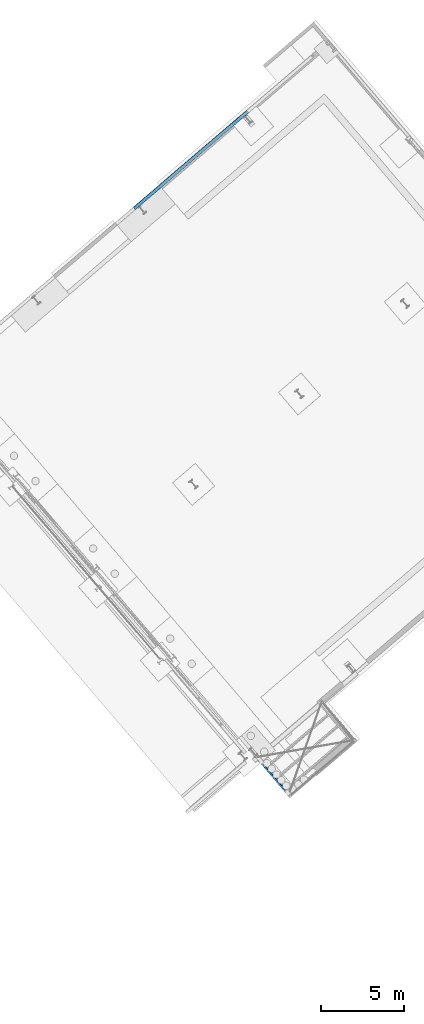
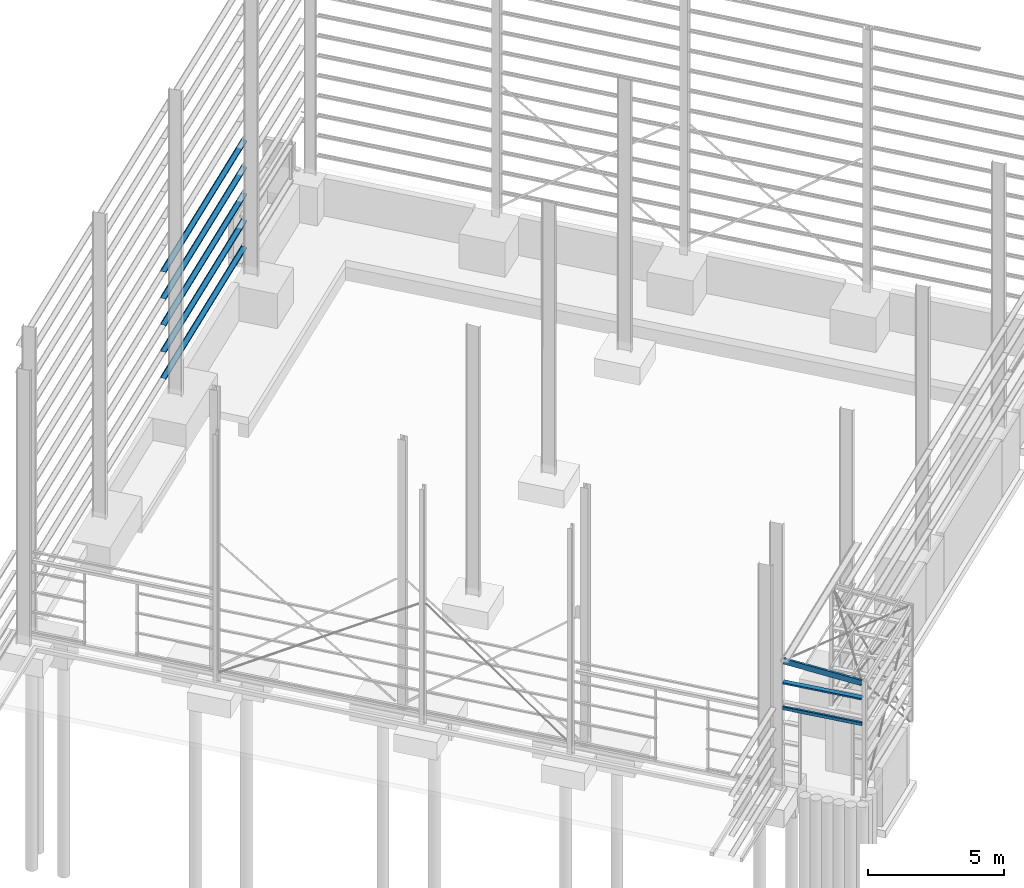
# One storey, part 19 of 41: 8 beams, 1 element without a shape of its own.
"""IFC2X3 building model written with IfcOpenShell, lengths in millimetres."""

from ifc_helpers import new_model, entity, si_unit, converted_unit, derived_unit, direction, frame, frame_2d, origin, place, context, subcontext, project, spatial, polyline, circle_curve, parameter, trimmed, segment, composite_curve, outline, extrude, material, type_object, element, aggregate, save


model = new_model("IFC2X3")

# Units and contexts
model_context = context("Model", 3, precision=0.01, world=origin(), true_north=direction((6.123031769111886e-17, 1.0)))
body_context = subcontext(model_context, "Body", "Model", "MODEL_VIEW")
ifc_project = project(units=[si_unit("LENGTHUNIT", "METRE", prefix="MILLI"), si_unit("AREAUNIT", "SQUARE_METRE"), si_unit("VOLUMEUNIT", "CUBIC_METRE"), converted_unit("PLANEANGLEUNIT", "DEGREE", entity("IfcRatioMeasure", 0.017453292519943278), si_unit("PLANEANGLEUNIT", "RADIAN"), dimensions=[0, 0, 0, 0, 0, 0, 0]), si_unit("MASSUNIT", "GRAM", prefix="KILO"), derived_unit("MASSDENSITYUNIT", [(si_unit("MASSUNIT", "GRAM", prefix="KILO"), 1), (si_unit("LENGTHUNIT", "METRE"), -3)]), derived_unit("MOMENTOFINERTIAUNIT", [(si_unit("LENGTHUNIT", "METRE"), 4)]), si_unit("TIMEUNIT", "SECOND"), si_unit("FREQUENCYUNIT", "HERTZ"), si_unit("THERMODYNAMICTEMPERATUREUNIT", "DEGREE_CELSIUS"), derived_unit("THERMALTRANSMITTANCEUNIT", [(si_unit("MASSUNIT", "GRAM", prefix="KILO"), 1), (si_unit("THERMODYNAMICTEMPERATUREUNIT", "KELVIN"), -1), (si_unit("TIMEUNIT", "SECOND"), -3)]), derived_unit("VOLUMETRICFLOWRATEUNIT", [(si_unit("LENGTHUNIT", "METRE"), 3), (si_unit("TIMEUNIT", "SECOND"), -1)]), derived_unit("MASSFLOWRATEUNIT", [(si_unit("MASSUNIT", "GRAM", prefix="KILO"), 1), (si_unit("TIMEUNIT", "SECOND"), -1)]), derived_unit("ROTATIONALFREQUENCYUNIT", [(si_unit("TIMEUNIT", "SECOND"), -1)]), si_unit("ELECTRICCURRENTUNIT", "AMPERE"), si_unit("ELECTRICVOLTAGEUNIT", "VOLT"), si_unit("POWERUNIT", "WATT"), si_unit("FORCEUNIT", "NEWTON", prefix="KILO"), si_unit("ILLUMINANCEUNIT", "LUX"), si_unit("LUMINOUSFLUXUNIT", "LUMEN"), si_unit("LUMINOUSINTENSITYUNIT", "CANDELA"), derived_unit("USERDEFINED", [(si_unit("MASSUNIT", "GRAM", prefix="KILO"), -1), (si_unit("LENGTHUNIT", "METRE"), -2), (si_unit("TIMEUNIT", "SECOND"), 3), (si_unit("LUMINOUSFLUXUNIT", "LUMEN"), 1)]), derived_unit("SOUNDPOWERUNIT", [(si_unit("MASSUNIT", "GRAM", prefix="KILO"), 1), (si_unit("LENGTHUNIT", "METRE"), 2), (si_unit("TIMEUNIT", "SECOND"), -3)]), derived_unit("LINEARVELOCITYUNIT", [(si_unit("LENGTHUNIT", "METRE"), 1), (si_unit("TIMEUNIT", "SECOND"), -1)]), si_unit("PRESSUREUNIT", "PASCAL"), derived_unit("USERDEFINED", [(si_unit("LENGTHUNIT", "METRE"), -2), (si_unit("MASSUNIT", "GRAM", prefix="KILO"), 1), (si_unit("TIMEUNIT", "SECOND"), -2)]), derived_unit("LINEARFORCEUNIT", [(si_unit("MASSUNIT", "GRAM", prefix="KILO"), 1), (si_unit("LENGTHUNIT", "METRE"), 1), (si_unit("TIMEUNIT", "SECOND"), -2), (si_unit("LENGTHUNIT", "METRE"), -1)]), derived_unit("PLANARFORCEUNIT", [(si_unit("MASSUNIT", "GRAM", prefix="KILO"), 1), (si_unit("LENGTHUNIT", "METRE"), 1), (si_unit("TIMEUNIT", "SECOND"), -2), (si_unit("LENGTHUNIT", "METRE"), -2)])], contexts=[model_context])

# Site, building, storey
site_placement = place(None, frame((962.4174930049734, -6014.433753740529, 0.0), z_axis=(0.0, 0.0, 1.0), x_axis=(0.7601792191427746, 0.649713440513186, 0.0)))
site = spatial("IfcSite", under=ifc_project, at=site_placement, Name="Default", CompositionType="ELEMENT")
building_placement = place(site_placement, origin())
building = spatial("IfcBuilding", under=site, at=building_placement, CompositionType="ELEMENT")
storey_placement = place(building_placement, origin())
storey = spatial("IfcBuildingStorey", under=building, at=storey_placement, Name="Datum", CompositionType="ELEMENT", Elevation=0.0)

# Beams
ifc_material_1 = material(Name="Metal - Light Gauge Painted")
beam_type_1 = type_object("IfcBeamType", Name="ADSK_AU_RHS-Rectangular Hollow Sections (AS 1163_C350):150x100x5.0RHS", PredefinedType="NOTDEFINED")
beam_1_placement = place(building_placement, frame((154514.96020470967, -29186.25772513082, 3350.0), z_axis=(0.0, 0.0, 1.0), x_axis=(0.0, 1.0, 0.0)))
element("IfcBeam", 1, at=beam_1_placement, inside=storey, type_object=beam_type_1, material=ifc_material_1, Name="ADSK_AU_RHS-Rectangular Hollow Sections (AS 1163_C350):150x100x5.0RHS", ObjectType="ADSK_AU_RHS-Rectangular Hollow Sections (AS 1163_C350):150x100x5.0RHS", context=body_context, shape_type="SweptSolid", body=[
    extrude(outline(composite_curve([segment(trimmed(circle_curve(frame_2d((-37.49999999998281, -62.49999999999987), x_axis=(1.0, 0.0)), 12.5), [parameter(180.00000000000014)], [parameter(269.99999999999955)], True, "PARAMETER"), True, "CONTINUOUS"), segment(polyline([(-37.49999999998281, -75.0), (37.50000000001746, -75.0)]), True, "CONTINUOUS"), segment(trimmed(circle_curve(frame_2d((37.50000000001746, -62.49999999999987), x_axis=(1.0, 0.0)), 12.5), [parameter(269.9999999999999)], [parameter(0.0)], True, "PARAMETER"), True, "CONTINUOUS"), segment(polyline([(50.0, -62.49999999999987), (50.0, 62.49999999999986)]), True, "CONTINUOUS"), segment(trimmed(circle_curve(frame_2d((37.50000000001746, 62.49999999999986), x_axis=(1.0, 0.0)), 12.5), [parameter(359.9999999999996)], [parameter(89.99999999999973)], True, "PARAMETER"), True, "CONTINUOUS"), segment(polyline([(37.50000000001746, 75.0), (-37.49999999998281, 75.0)]), True, "CONTINUOUS"), segment(trimmed(circle_curve(frame_2d((-37.49999999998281, 62.49999999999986), x_axis=(1.0, 0.0)), 12.5), [parameter(90.00000000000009)], [parameter(180.00000000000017)], True, "PARAMETER"), True, "CONTINUOUS"), segment(polyline([(-50.0, 62.49999999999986), (-50.0, -62.49999999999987)]), True, "CONTINUOUS")], self_intersect=False), holes=[composite_curve([segment(polyline([(37.50000000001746, -70.0), (-37.49999999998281, -70.0)]), True, "CONTINUOUS"), segment(trimmed(circle_curve(frame_2d((-37.49999999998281, -62.50000000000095), x_axis=(1.0, 0.0)), 7.5), [parameter(180.0000000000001)], [parameter(269.9999999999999)], True, "PARAMETER"), False, "CONTINUOUS"), segment(polyline([(-45.0, -62.50000000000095), (-45.0, 62.49999999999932)]), True, "CONTINUOUS"), segment(trimmed(circle_curve(frame_2d((-37.49999999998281, 62.49999999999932), x_axis=(1.0, 0.0)), 7.5), [parameter(90.00000000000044)], [parameter(180.0000000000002)], True, "PARAMETER"), False, "CONTINUOUS"), segment(polyline([(-37.49999999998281, 70.0), (37.50000000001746, 70.0)]), True, "CONTINUOUS"), segment(trimmed(circle_curve(frame_2d((37.50000000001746, 62.49999999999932), x_axis=(1.0, 0.0)), 7.5), [parameter(0.0)], [parameter(90.00000000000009)], True, "PARAMETER"), False, "CONTINUOUS"), segment(polyline([(45.0, 62.49999999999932), (45.0, -62.50000000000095)]), True, "CONTINUOUS"), segment(trimmed(circle_curve(frame_2d((37.50000000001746, -62.50000000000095), x_axis=(1.0, 0.0)), 7.5), [parameter(270.00000000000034)], [parameter(4.0711099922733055e-13)], True, "PARAMETER"), False, "CONTINUOUS")], self_intersect=False)]), frame((-37.17035699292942, 0.0, -75.0), z_axis=(1.0, 0.0, 0.0), x_axis=(0.0, -1.0, 0.0)), (0.0, 0.0, 1.0), 3110.0703569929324),
])
beam_type_2 = type_object("IfcBeamType", Name="ADSK_AU_PFC-Parallel Flange Channels (AS 3679_1):250PFC", PredefinedType="NOTDEFINED")
beam_2_placement = place(building_placement, frame((154495.36020470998, -29374.382434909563, 5238.588974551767), z_axis=(0.0, -0.08715574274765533, 0.9961946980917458), x_axis=(0.0, 0.9961946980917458, 0.08715574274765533)))
element("IfcBeam", 2, at=beam_2_placement, inside=storey, type_object=beam_type_2, material=ifc_material_1, Name="ADSK_AU_PFC-Parallel Flange Channels (AS 3679_1):250PFC", ObjectType="ADSK_AU_PFC-Parallel Flange Channels (AS 3679_1):250PFC", context=body_context, shape_type="SweptSolid", body=[
    extrude(outline(composite_curve([segment(polyline([(-125.0, -48.399999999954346), (-110.0, -48.399999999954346)]), True, "CONTINUOUS"), segment(polyline([(-110.0, -48.399999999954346), (-110.0, 21.600000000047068)]), True, "CONTINUOUS"), segment(trimmed(circle_curve(frame_2d((-98.0, 21.600000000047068), x_axis=(-1.0, 0.0)), 11.99999999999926), [parameter(269.99999999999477)], [parameter(0.0)], True, "PARAMETER"), False, "CONTINUOUS"), segment(polyline([(-98.0, 33.60000000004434), (98.0, 33.60000000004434)]), True, "CONTINUOUS"), segment(trimmed(circle_curve(frame_2d((98.0, 21.600000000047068), x_axis=(0.0, 1.0)), 11.999999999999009), [parameter(269.99999999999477)], [parameter(0.0)], True, "PARAMETER"), False, "CONTINUOUS"), segment(polyline([(110.0, 21.600000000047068), (110.0, -48.399999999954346)]), True, "CONTINUOUS"), segment(polyline([(110.0, -48.399999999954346), (125.0, -48.399999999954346)]), True, "CONTINUOUS"), segment(polyline([(125.0, -48.399999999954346), (125.0, 41.60000000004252)]), True, "CONTINUOUS"), segment(polyline([(125.0, 41.60000000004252), (-125.0, 41.60000000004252)]), True, "CONTINUOUS"), segment(polyline([(-125.0, 41.60000000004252), (-125.0, -48.399999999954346)]), True, "CONTINUOUS")], self_intersect=False)), frame((163.71873539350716, -13.0, -125.0), z_axis=(1.0, 0.0, 0.0), x_axis=(0.0, 0.0, -1.0)), (0.0, 0.0, 1.0), 3059.000000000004),
])

# Assembly, beams
assembly_placement = place(building_placement, origin())
assembly = element("IfcElementAssembly", 3, at=assembly_placement, inside=storey, Name="Structural Beam System:Structural Beam System 1", ObjectType="Structural Beam System:Structural Beam System 1", AssemblyPlace="NOTDEFINED", PredefinedType="BEAM_GRID")
ifc_material_2 = material(Name="Metal - Steel - 345 MPa")
beam_type_3 = type_object("IfcBeamType", Name="ADSK_AU_Light Gauge-Zeds:Z20012", PredefinedType="NOTDEFINED")
beam_3_placement = place(building_placement, frame((170439.31020470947, 3669.071917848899, 5413.499999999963)))
beam_3 = element("IfcBeam", 4, at=beam_3_placement, type_object=beam_type_3, material=ifc_material_2, Name="ADSK_AU_Light Gauge-Zeds:Z20012", ObjectType="ADSK_AU_Light Gauge-Zeds:Z20012", context=body_context, shape_type="SweptSolid", body=[
    extrude(outline(composite_curve([segment(polyline([(6.439999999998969, -101.50000000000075), (63.23999999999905, -101.50000000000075)]), True, "CONTINUOUS"), segment(trimmed(circle_curve(frame_2d((63.23999999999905, -98.29999999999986), x_axis=(0.0, -1.0)), 3.2000000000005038), [parameter(0.0)], [parameter(89.9999999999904)], True, "PARAMETER"), True, "CONTINUOUS"), segment(polyline([(66.43999999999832, -98.3000000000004), (66.43999999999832, -82.0)]), True, "CONTINUOUS"), segment(polyline([(66.43999999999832, -82.0), (65.23999999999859, -82.0)]), True, "CONTINUOUS"), segment(polyline([(65.23999999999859, -82.0), (65.23999999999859, -98.3000000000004)]), True, "CONTINUOUS"), segment(trimmed(circle_curve(frame_2d((63.23999999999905, -98.30000000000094), x_axis=(1.0, 0.0)), 1.9999999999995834), [parameter(269.99999999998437)], [parameter(0.0)], True, "PARAMETER"), False, "CONTINUOUS"), segment(polyline([(63.23999999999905, -100.30000000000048), (6.439999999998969, -100.30000000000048)]), True, "CONTINUOUS"), segment(trimmed(circle_curve(frame_2d((6.439999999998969, -98.30000000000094), x_axis=(0.0, -1.0)), 1.9999999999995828), [parameter(269.99999999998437)], [parameter(0.0)], True, "PARAMETER"), False, "CONTINUOUS"), segment(polyline([(4.439999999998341, -98.3000000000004), (4.439999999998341, 98.29999999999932)]), True, "CONTINUOUS"), segment(trimmed(circle_curve(frame_2d((1.2399999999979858, 98.29999999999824), x_axis=(1.0, 0.0)), 3.2000000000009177), [parameter(0.0)], [parameter(89.9999999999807)], True, "PARAMETER"), True, "CONTINUOUS"), segment(polyline([(1.2399999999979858, 101.49999999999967), (-68.36000000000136, 101.49999999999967)]), True, "CONTINUOUS"), segment(trimmed(circle_curve(frame_2d((-68.36000000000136, 98.29999999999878), x_axis=(0.0, 1.0)), 3.2000000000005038), [parameter(0.0)], [parameter(89.9999999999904)], True, "PARAMETER"), True, "CONTINUOUS"), segment(polyline([(-71.56000000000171, 98.29999999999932), (-71.56000000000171, 82.0)]), True, "CONTINUOUS"), segment(polyline([(-71.56000000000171, 82.0), (-70.36000000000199, 82.0)]), True, "CONTINUOUS"), segment(polyline([(-70.36000000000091, 82.0), (-70.36000000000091, 98.29999999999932)]), True, "CONTINUOUS"), segment(trimmed(circle_curve(frame_2d((-68.36000000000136, 98.29999999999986), x_axis=(-1.0, 0.0)), 1.9999999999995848), [parameter(269.99999999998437)], [parameter(0.0)], True, "PARAMETER"), False, "CONTINUOUS"), segment(polyline([(-68.36000000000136, 100.2999999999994), (1.2399999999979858, 100.2999999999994)]), True, "CONTINUOUS"), segment(trimmed(circle_curve(frame_2d((1.2399999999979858, 98.29999999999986), x_axis=(0.0, 1.0)), 1.999999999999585), [parameter(269.99999999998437)], [parameter(0.0)], True, "PARAMETER"), False, "CONTINUOUS"), segment(polyline([(3.2399999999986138, 98.29999999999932), (3.2399999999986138, -98.3000000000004)]), True, "CONTINUOUS"), segment(trimmed(circle_curve(frame_2d((6.440000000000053, -98.29999999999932), x_axis=(-1.0, 0.0)), 3.2000000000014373), [parameter(0.0)], [parameter(89.99999999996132)], True, "PARAMETER"), True, "CONTINUOUS")], self_intersect=False)), frame((0.1499999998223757, 101.50000000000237, 4.439999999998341), z_axis=(1.0, 0.0, 0.0), x_axis=(0.0, 0.0, -1.0)), (0.0, 0.0, 1.0), 8999.000000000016),
])
beam_4_placement = place(building_placement, frame((170439.31020470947, 3669.071917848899, 4213.499999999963)))
beam_4 = element("IfcBeam", 5, at=beam_4_placement, type_object=beam_type_3, material=ifc_material_2, Name="ADSK_AU_Light Gauge-Zeds:Z20012", ObjectType="ADSK_AU_Light Gauge-Zeds:Z20012", context=body_context, shape_type="SweptSolid", body=[
    extrude(outline(composite_curve([segment(polyline([(6.439999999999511, -101.50000000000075), (63.23999999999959, -101.50000000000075)]), True, "CONTINUOUS"), segment(trimmed(circle_curve(frame_2d((63.24000000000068, -98.30000000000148), x_axis=(0.0, -1.0)), 3.199999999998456), [parameter(0.0)], [parameter(90.00000000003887)], True, "PARAMETER"), True, "CONTINUOUS"), segment(polyline([(66.43999999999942, -98.3000000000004), (66.43999999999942, -82.0)]), True, "CONTINUOUS"), segment(polyline([(66.43999999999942, -82.0), (65.23999999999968, -82.0)]), True, "CONTINUOUS"), segment(polyline([(65.23999999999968, -82.0), (65.23999999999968, -98.3000000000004)]), True, "CONTINUOUS"), segment(trimmed(circle_curve(frame_2d((63.23999999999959, -98.3000000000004), x_axis=(1.0, 0.0)), 2.0000000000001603), [parameter(269.9999999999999)], [parameter(0.0)], True, "PARAMETER"), False, "CONTINUOUS"), segment(polyline([(63.23999999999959, -100.30000000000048), (6.439999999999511, -100.30000000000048)]), True, "CONTINUOUS"), segment(trimmed(circle_curve(frame_2d((6.439999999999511, -98.3000000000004), x_axis=(0.0, -1.0)), 2.000000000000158), [parameter(269.9999999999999)], [parameter(0.0)], True, "PARAMETER"), False, "CONTINUOUS"), segment(polyline([(4.439999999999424, -98.3000000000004), (4.439999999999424, 98.29999999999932)]), True, "CONTINUOUS"), segment(trimmed(circle_curve(frame_2d((1.240000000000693, 98.3000000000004), x_axis=(1.0, 0.0)), 3.199999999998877), [parameter(0.0)], [parameter(90.00000000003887)], True, "PARAMETER"), True, "CONTINUOUS"), segment(polyline([(1.2399999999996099, 101.49999999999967), (-68.36000000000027, 101.49999999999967)]), True, "CONTINUOUS"), segment(trimmed(circle_curve(frame_2d((-68.36000000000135, 98.3000000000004), x_axis=(0.0, 1.0)), 3.199999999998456), [parameter(0.0)], [parameter(90.00000000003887)], True, "PARAMETER"), True, "CONTINUOUS"), segment(polyline([(-71.56000000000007, 98.29999999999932), (-71.56000000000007, 82.0)]), True, "CONTINUOUS"), segment(polyline([(-71.56000000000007, 82.0), (-70.35999999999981, 82.0)]), True, "CONTINUOUS"), segment(polyline([(-70.36000000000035, 82.0), (-70.36000000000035, 98.29999999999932)]), True, "CONTINUOUS"), segment(trimmed(circle_curve(frame_2d((-68.36000000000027, 98.29999999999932), x_axis=(-1.0, 0.0)), 2.000000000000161), [parameter(269.9999999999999)], [parameter(0.0)], True, "PARAMETER"), False, "CONTINUOUS"), segment(polyline([(-68.36000000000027, 100.2999999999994), (1.2399999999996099, 100.2999999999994)]), True, "CONTINUOUS"), segment(trimmed(circle_curve(frame_2d((1.2399999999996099, 98.29999999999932), x_axis=(0.0, 1.0)), 2.0000000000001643), [parameter(269.9999999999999)], [parameter(0.0)], True, "PARAMETER"), False, "CONTINUOUS"), segment(polyline([(3.2399999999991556, 98.29999999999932), (3.2399999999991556, -98.3000000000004)]), True, "CONTINUOUS"), segment(trimmed(circle_curve(frame_2d((6.439999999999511, -98.3000000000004), x_axis=(-1.0, 0.0)), 3.200000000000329), [parameter(0.0)], [parameter(90.00000000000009)], True, "PARAMETER"), True, "CONTINUOUS")], self_intersect=False)), frame((0.1499999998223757, 101.50000000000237, 4.439999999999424), z_axis=(1.0, 0.0, 0.0), x_axis=(0.0, 0.0, -1.0)), (0.0, 0.0, 1.0), 8999.000000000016),
])
beam_5_placement = place(building_placement, frame((170439.31020470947, 3669.071917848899, 3013.4999999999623)))
beam_5 = element("IfcBeam", 6, at=beam_5_placement, type_object=beam_type_3, material=ifc_material_2, Name="ADSK_AU_Light Gauge-Zeds:Z20012", ObjectType="ADSK_AU_Light Gauge-Zeds:Z20012", context=body_context, shape_type="SweptSolid", body=[
    extrude(outline(composite_curve([segment(polyline([(6.440000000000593, -101.50000000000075), (63.24000000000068, -101.50000000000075)]), True, "CONTINUOUS"), segment(trimmed(circle_curve(frame_2d((63.240000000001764, -98.30000000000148), x_axis=(0.0, -1.0)), 3.199999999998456), [parameter(0.0)], [parameter(90.00000000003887)], True, "PARAMETER"), True, "CONTINUOUS"), segment(polyline([(66.4400000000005, -98.3000000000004), (66.4400000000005, -82.0)]), True, "CONTINUOUS"), segment(polyline([(66.4400000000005, -82.0), (65.24000000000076, -82.0)]), True, "CONTINUOUS"), segment(polyline([(65.24000000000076, -82.0), (65.24000000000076, -98.3000000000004)]), True, "CONTINUOUS"), segment(trimmed(circle_curve(frame_2d((63.24000000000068, -98.3000000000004), x_axis=(1.0, 0.0)), 2.0000000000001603), [parameter(269.9999999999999)], [parameter(0.0)], True, "PARAMETER"), False, "CONTINUOUS"), segment(polyline([(63.24000000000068, -100.30000000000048), (6.440000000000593, -100.30000000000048)]), True, "CONTINUOUS"), segment(trimmed(circle_curve(frame_2d((6.440000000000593, -98.3000000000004), x_axis=(0.0, -1.0)), 2.000000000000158), [parameter(269.9999999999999)], [parameter(0.0)], True, "PARAMETER"), False, "CONTINUOUS"), segment(polyline([(4.440000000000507, -98.3000000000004), (4.440000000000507, 98.29999999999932)]), True, "CONTINUOUS"), segment(trimmed(circle_curve(frame_2d((1.2400000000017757, 98.3000000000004), x_axis=(1.0, 0.0)), 3.199999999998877), [parameter(0.0)], [parameter(90.00000000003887)], True, "PARAMETER"), True, "CONTINUOUS"), segment(polyline([(1.2400000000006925, 101.49999999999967), (-68.35999999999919, 101.49999999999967)]), True, "CONTINUOUS"), segment(trimmed(circle_curve(frame_2d((-68.36000000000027, 98.3000000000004), x_axis=(0.0, 1.0)), 3.199999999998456), [parameter(0.0)], [parameter(90.00000000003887)], True, "PARAMETER"), True, "CONTINUOUS"), segment(polyline([(-71.559999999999, 98.29999999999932), (-71.559999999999, 82.0)]), True, "CONTINUOUS"), segment(polyline([(-71.559999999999, 82.0), (-70.35999999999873, 82.0)]), True, "CONTINUOUS"), segment(polyline([(-70.35999999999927, 82.0), (-70.35999999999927, 98.29999999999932)]), True, "CONTINUOUS"), segment(trimmed(circle_curve(frame_2d((-68.35999999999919, 98.29999999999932), x_axis=(-1.0, 0.0)), 2.000000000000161), [parameter(269.9999999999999)], [parameter(0.0)], True, "PARAMETER"), False, "CONTINUOUS"), segment(polyline([(-68.35999999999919, 100.2999999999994), (1.2400000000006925, 100.2999999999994)]), True, "CONTINUOUS"), segment(trimmed(circle_curve(frame_2d((1.2400000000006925, 98.29999999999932), x_axis=(0.0, 1.0)), 2.0000000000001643), [parameter(269.9999999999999)], [parameter(0.0)], True, "PARAMETER"), False, "CONTINUOUS"), segment(polyline([(3.2400000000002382, 98.29999999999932), (3.2400000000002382, -98.3000000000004)]), True, "CONTINUOUS"), segment(trimmed(circle_curve(frame_2d((6.440000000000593, -98.3000000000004), x_axis=(-1.0, 0.0)), 3.200000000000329), [parameter(0.0)], [parameter(90.00000000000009)], True, "PARAMETER"), True, "CONTINUOUS")], self_intersect=False)), frame((0.1499999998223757, 101.50000000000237, 4.440000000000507), z_axis=(1.0, 0.0, 0.0), x_axis=(0.0, 0.0, -1.0)), (0.0, 0.0, 1.0), 8999.000000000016),
])
beam_6_placement = place(building_placement, frame((170439.31020470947, 3669.071917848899, 1813.4999999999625)))
beam_6 = element("IfcBeam", 7, at=beam_6_placement, type_object=beam_type_3, material=ifc_material_2, Name="ADSK_AU_Light Gauge-Zeds:Z20012", ObjectType="ADSK_AU_Light Gauge-Zeds:Z20012", context=body_context, shape_type="SweptSolid", body=[
    extrude(outline(composite_curve([segment(polyline([(6.440000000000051, -101.50000000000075), (63.24000000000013, -101.50000000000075)]), True, "CONTINUOUS"), segment(trimmed(circle_curve(frame_2d((63.24000000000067, -98.30000000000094), x_axis=(0.0, -1.0)), 3.1999999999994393), [parameter(0.0)], [parameter(90.00000000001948)], True, "PARAMETER"), True, "CONTINUOUS"), segment(polyline([(66.44000000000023, -98.3000000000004), (66.44000000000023, -82.0)]), True, "CONTINUOUS"), segment(polyline([(66.44000000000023, -82.0), (65.24000000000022, -82.0)]), True, "CONTINUOUS"), segment(polyline([(65.24000000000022, -82.0), (65.24000000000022, -98.3000000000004)]), True, "CONTINUOUS"), segment(trimmed(circle_curve(frame_2d((63.24000000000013, -98.3000000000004), x_axis=(1.0, 0.0)), 2.0000000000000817), [parameter(269.9999999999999)], [parameter(0.0)], True, "PARAMETER"), False, "CONTINUOUS"), segment(polyline([(63.24000000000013, -100.30000000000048), (6.440000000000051, -100.30000000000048)]), True, "CONTINUOUS"), segment(trimmed(circle_curve(frame_2d((6.440000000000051, -98.3000000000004), x_axis=(0.0, -1.0)), 2.0000000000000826), [parameter(269.9999999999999)], [parameter(0.0)], True, "PARAMETER"), False, "CONTINUOUS"), segment(polyline([(4.439999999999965, -98.3000000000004), (4.439999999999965, 98.29999999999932)]), True, "CONTINUOUS"), segment(trimmed(circle_curve(frame_2d((1.2400000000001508, 98.29999999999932), x_axis=(1.0, 0.0)), 3.199999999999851), [parameter(0.0)], [parameter(90.00000000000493)], True, "PARAMETER"), True, "CONTINUOUS"), segment(polyline([(1.2399999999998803, 101.49999999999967), (-68.36, 101.49999999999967)]), True, "CONTINUOUS"), segment(trimmed(circle_curve(frame_2d((-68.36000000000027, 98.29999999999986), x_axis=(0.0, 1.0)), 3.1999999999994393), [parameter(0.0)], [parameter(90.00000000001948)], True, "PARAMETER"), True, "CONTINUOUS"), segment(polyline([(-71.5599999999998, 98.29999999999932), (-71.5599999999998, 82.0)]), True, "CONTINUOUS"), segment(polyline([(-71.5599999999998, 82.0), (-70.35999999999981, 82.0)]), True, "CONTINUOUS"), segment(polyline([(-70.35999999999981, 82.0), (-70.35999999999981, 98.29999999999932)]), True, "CONTINUOUS"), segment(trimmed(circle_curve(frame_2d((-68.35999999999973, 98.29999999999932), x_axis=(-1.0, 0.0)), 2.000000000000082), [parameter(269.9999999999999)], [parameter(0.0)], True, "PARAMETER"), False, "CONTINUOUS"), segment(polyline([(-68.35999999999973, 100.2999999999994), (1.2400000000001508, 100.2999999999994)]), True, "CONTINUOUS"), segment(trimmed(circle_curve(frame_2d((1.2399999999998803, 98.29999999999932), x_axis=(0.0, 1.0)), 2.0000000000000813), [parameter(269.9999999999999)], [parameter(0.0)], True, "PARAMETER"), False, "CONTINUOUS"), segment(polyline([(3.239999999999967, 98.29999999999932), (3.239999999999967, -98.3000000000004)]), True, "CONTINUOUS"), segment(trimmed(circle_curve(frame_2d((6.440000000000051, -98.3000000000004), x_axis=(-1.0, 0.0)), 3.2000000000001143), [parameter(0.0)], [parameter(90.00000000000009)], True, "PARAMETER"), True, "CONTINUOUS")], self_intersect=False)), frame((0.1499999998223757, 101.50000000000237, 4.439999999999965), z_axis=(1.0, 0.0, 0.0), x_axis=(0.0, 0.0, -1.0)), (0.0, 0.0, 1.0), 8999.000000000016),
])
beam_7_placement = place(building_placement, frame((170439.31020470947, 3669.071917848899, 613.4999999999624)))
beam_7 = element("IfcBeam", 8, at=beam_7_placement, type_object=beam_type_3, material=ifc_material_2, Name="ADSK_AU_Light Gauge-Zeds:Z20012", ObjectType="ADSK_AU_Light Gauge-Zeds:Z20012", context=body_context, shape_type="SweptSolid", body=[
    extrude(outline(composite_curve([segment(polyline([(6.440000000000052, -101.50000000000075), (63.24000000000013, -101.50000000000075)]), True, "CONTINUOUS"), segment(trimmed(circle_curve(frame_2d((63.24000000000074, -98.30000000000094), x_axis=(0.0, -1.0)), 3.1999999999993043), [parameter(0.0)], [parameter(90.00000000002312)], True, "PARAMETER"), True, "CONTINUOUS"), segment(polyline([(66.44000000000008, -98.3000000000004), (66.44000000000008, -82.0)]), True, "CONTINUOUS"), segment(polyline([(66.44000000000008, -82.0), (65.24000000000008, -82.0)]), True, "CONTINUOUS"), segment(polyline([(65.24000000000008, -82.0), (65.24000000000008, -98.3000000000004)]), True, "CONTINUOUS"), segment(trimmed(circle_curve(frame_2d((63.239999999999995, -98.3000000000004), x_axis=(1.0, 0.0)), 2.000000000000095), [parameter(270.0000000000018)], [parameter(0.0)], True, "PARAMETER"), False, "CONTINUOUS"), segment(polyline([(63.240000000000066, -100.30000000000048), (6.439999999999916, -100.30000000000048)]), True, "CONTINUOUS"), segment(trimmed(circle_curve(frame_2d((6.440000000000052, -98.3000000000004), x_axis=(0.0, -1.0)), 2.000000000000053), [parameter(269.9999999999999)], [parameter(0.0)], True, "PARAMETER"), False, "CONTINUOUS"), segment(polyline([(4.43999999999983, -98.3000000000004), (4.43999999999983, 98.29999999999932)]), True, "CONTINUOUS"), segment(trimmed(circle_curve(frame_2d((1.2400000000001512, 98.29999999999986), x_axis=(1.0, 0.0)), 3.1999999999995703), [parameter(0.0)], [parameter(90.00000000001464)], True, "PARAMETER"), True, "CONTINUOUS"), segment(polyline([(1.2399999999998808, 101.49999999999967), (-68.35999999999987, 101.49999999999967)]), True, "CONTINUOUS"), segment(trimmed(circle_curve(frame_2d((-68.36000000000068, 98.29999999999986), x_axis=(0.0, 1.0)), 3.199999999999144), [parameter(0.0)], [parameter(90.00000000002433)], True, "PARAMETER"), True, "CONTINUOUS"), segment(polyline([(-71.55999999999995, 98.29999999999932), (-71.55999999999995, 82.0)]), True, "CONTINUOUS"), segment(polyline([(-71.55999999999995, 82.0), (-70.35999999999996, 82.0)]), True, "CONTINUOUS"), segment(polyline([(-70.35999999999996, 82.0), (-70.35999999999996, 98.29999999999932)]), True, "CONTINUOUS"), segment(trimmed(circle_curve(frame_2d((-68.35999999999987, 98.29999999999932), x_axis=(-1.0, 0.0)), 2.000000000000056), [parameter(269.9999999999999)], [parameter(0.0)], True, "PARAMETER"), False, "CONTINUOUS"), segment(polyline([(-68.35999999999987, 100.2999999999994), (1.2399999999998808, 100.2999999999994)]), True, "CONTINUOUS"), segment(trimmed(circle_curve(frame_2d((1.2399999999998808, 98.29999999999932), x_axis=(0.0, 1.0)), 2.000000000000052), [parameter(269.9999999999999)], [parameter(0.0)], True, "PARAMETER"), False, "CONTINUOUS"), segment(polyline([(3.239999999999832, 98.29999999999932), (3.239999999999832, -98.3000000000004)]), True, "CONTINUOUS"), segment(trimmed(circle_curve(frame_2d((6.440000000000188, -98.3000000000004), x_axis=(-1.0, 0.0)), 3.2000000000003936), [parameter(0.0)], [parameter(89.99999999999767)], True, "PARAMETER"), True, "CONTINUOUS")], self_intersect=False)), frame((0.1499999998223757, 101.50000000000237, 4.43999999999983), z_axis=(1.0, 0.0, 0.0), x_axis=(0.0, 0.0, -1.0)), (0.0, 0.0, 1.0), 8999.000000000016),
])
aggregate(assembly, [beam_3, beam_4, beam_5, beam_6, beam_7])

# Beam
ifc_material_3 = material(Name="Metal - Light Gauge")
beam_type_4 = type_object("IfcBeamType", Name="ADSK_AUS_Light Gauge-Joists:C20019", PredefinedType="NOTDEFINED")
beam_8_placement = place(building_placement, frame((154469.96020470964, -26113.428082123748, 4429.929873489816), z_axis=(0.0, 0.0, 1.0), x_axis=(0.0, -1.0, 0.0)))
element("IfcBeam", 9, at=beam_8_placement, inside=storey, type_object=beam_type_4, material=ifc_material_3, Name="ADSK_AUS_Light Gauge-Joists:C20019", ObjectType="ADSK_AUS_Light Gauge-Joists:C20019", context=body_context, shape_type="SweptSolid", body=[
    extrude(outline(composite_curve([segment(polyline([(-40.5518499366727, -101.50000000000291), (26.33184993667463, -101.50000000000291)]), True, "CONTINUOUS"), segment(trimmed(circle_curve(frame_2d((26.331849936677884, -98.44184993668), x_axis=(0.0, -1.0)), 3.058150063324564), [parameter(0.0)], [parameter(90.00000000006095)], True, "PARAMETER"), True, "CONTINUOUS"), segment(polyline([(29.390000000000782, -98.44184993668), (29.390000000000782, -78.50000000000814)]), True, "CONTINUOUS"), segment(polyline([(29.390000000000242, -78.49999999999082), (27.490000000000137, -78.49999999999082)]), True, "CONTINUOUS"), segment(polyline([(27.490000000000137, -78.49999999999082), (27.490000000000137, -98.02934993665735)]), True, "CONTINUOUS"), segment(trimmed(circle_curve(frame_2d((25.919349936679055, -98.02934993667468), x_axis=(1.0, 0.0)), 1.5706500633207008), [parameter(269.99999999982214)], [parameter(0.0)], True, "PARAMETER"), False, "CONTINUOUS"), segment(polyline([(25.91934993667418, -99.59999999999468), (-40.139349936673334, -99.59999999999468)]), True, "CONTINUOUS"), segment(trimmed(circle_curve(frame_2d((-40.13934993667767, -98.02934993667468), x_axis=(0.0, -1.0)), 1.5706500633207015), [parameter(269.99999999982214)], [parameter(0.0)], True, "PARAMETER"), False, "CONTINUOUS"), segment(polyline([(-41.70999999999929, -98.02934993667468), (-41.70999999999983, 98.02934993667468)]), True, "CONTINUOUS"), segment(trimmed(circle_curve(frame_2d((-40.13934993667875, 98.02934993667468), x_axis=(-1.0, 0.0)), 1.5706500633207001), [parameter(269.99999999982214)], [parameter(0.0)], True, "PARAMETER"), False, "CONTINUOUS"), segment(polyline([(-40.13934993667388, 99.5999999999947), (25.91934993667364, 99.5999999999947)]), True, "CONTINUOUS"), segment(trimmed(circle_curve(frame_2d((25.919349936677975, 98.02934993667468), x_axis=(0.0, 1.0)), 1.5706500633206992), [parameter(269.99999999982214)], [parameter(0.0)], True, "PARAMETER"), False, "CONTINUOUS"), segment(polyline([(27.489999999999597, 98.02934993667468), (27.489999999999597, 78.50000000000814)]), True, "CONTINUOUS"), segment(polyline([(27.490000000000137, 78.50000000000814), (29.390000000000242, 78.50000000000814)]), True, "CONTINUOUS"), segment(polyline([(29.390000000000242, 78.50000000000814), (29.390000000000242, 98.44184993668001)]), True, "CONTINUOUS"), segment(trimmed(circle_curve(frame_2d((26.33184993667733, 98.44184993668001), x_axis=(1.0, 0.0)), 3.058150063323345), [parameter(0.0)], [parameter(90.00000000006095)], True, "PARAMETER"), True, "CONTINUOUS"), segment(polyline([(26.33184993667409, 101.50000000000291), (-40.551849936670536, 101.50000000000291)]), True, "CONTINUOUS"), segment(trimmed(circle_curve(frame_2d((-40.55184993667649, 98.44184993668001), x_axis=(0.0, 1.0)), 3.05815006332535), [parameter(0.0)], [parameter(90.00000000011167)], True, "PARAMETER"), True, "CONTINUOUS"), segment(polyline([(-43.61000000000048, 98.44184993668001), (-43.60999999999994, -98.44184993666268)]), True, "CONTINUOUS"), segment(trimmed(circle_curve(frame_2d((-40.55184993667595, -98.44184993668), x_axis=(-1.0, 0.0)), 3.0581500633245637), [parameter(0.0)], [parameter(90.00000000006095)], True, "PARAMETER"), True, "CONTINUOUS")], self_intersect=False)), frame((0.0, 101.50000000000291, -43.60999999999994), z_axis=(1.0, 0.0, 0.0), x_axis=(0.0, 0.0, -1.0)), (0.0, 0.0, 1.0), 3097.000000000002),
])

save(model, "model.ifc")
